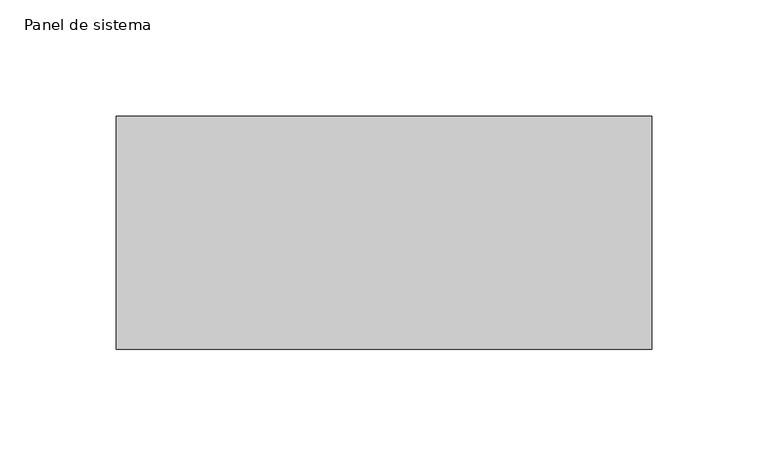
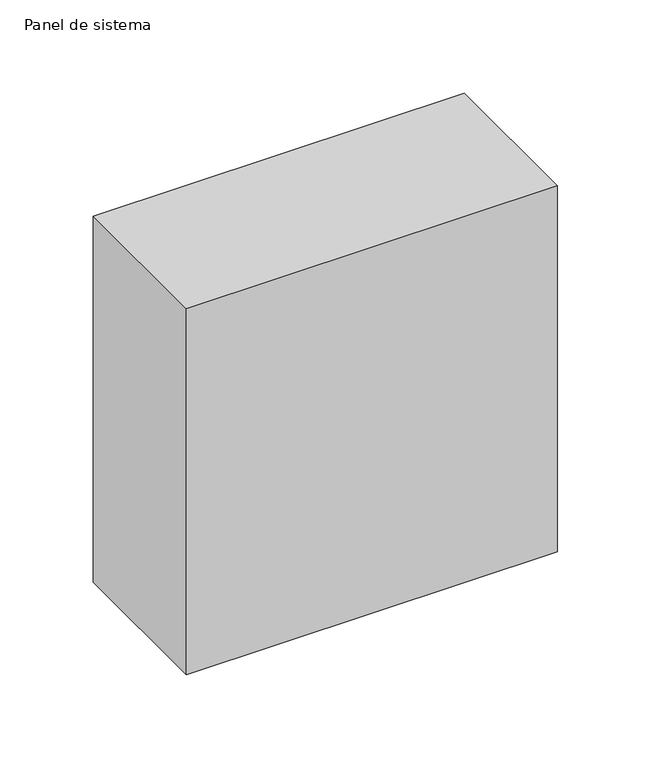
"""IFC4 building model written with IfcOpenShell, lengths in millimetres: plate geometry, Panel de sistema : PAVES."""

from ifc_helpers import new_model, si_unit, origin, origin_with_axes, place, context, project, spatial, polyline, outline, extrude, source, transform, mapped, element, save


def panel_de_sistema_5076b700(model_context):
    return source(origin(), model_context, "Body", "SweptSolid", [
        extrude(outline(polyline([(115.0, -50.0), (-115.0, -50.0), (-115.0, 50.0), (115.0, 50.0), (115.0, -50.0)])), origin_with_axes(), (0.0, 0.0, 1.0), 240.0),
    ])


if __name__ == "__main__":
    model = new_model("IFC4")
    model_context = context("Model", 3, world=origin())
    ifc_project = project(units=[si_unit("LENGTHUNIT", "METRE", prefix="MILLI")], contexts=[model_context])
    site = spatial("IfcSite", under=ifc_project)
    building = spatial("IfcBuilding", under=site)
    placement = place(None, origin())
    panel_de_sistema_shape = panel_de_sistema_5076b700(model_context)
    element("IfcPlate", 1, ObjectType="Panel de sistema : PAVES", at=placement, inside=building, context=model_context, shape_type="MappedRepresentation", body=[
        mapped(panel_de_sistema_shape, transform((0.0, 0.0, 0.0), x_axis=(1.0, 0.0, 0.0), y_axis=(0.0, 1.0, 0.0), z_axis=(0.0, 0.0, 1.0))),
    ])
    save(model, "model.ifc")
